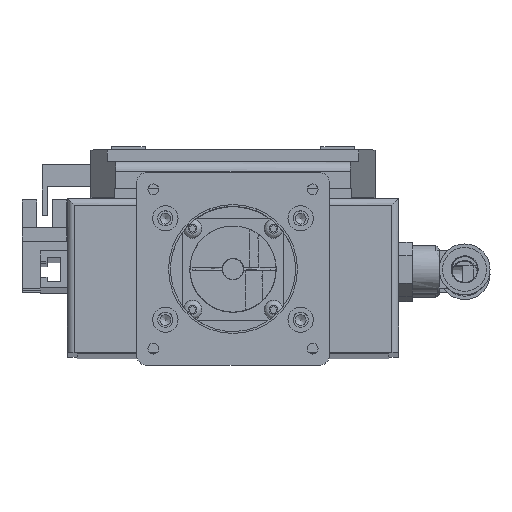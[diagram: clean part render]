
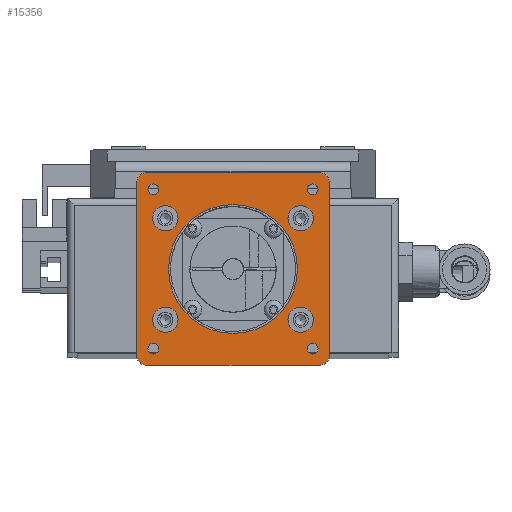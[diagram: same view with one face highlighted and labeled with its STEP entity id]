
A CAD part, top view. The second image highlights one B-rep face of the part: STEP entity #15356.
In plain terms, the highlighted planar face has unit normal (0, 0, 1).
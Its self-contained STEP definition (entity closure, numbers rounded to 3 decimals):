
#14774=CARTESIAN_POINT('',(0.0,3.,0.0));
#14775=VERTEX_POINT('',#14774);
#14782=CARTESIAN_POINT('',(0.0,54.0,0.0));
#14783=VERTEX_POINT('',#14782);
#14784=CARTESIAN_POINT('',(0.0,54.0,0.0));
#14785=DIRECTION('',(0.0,-1.0,0.0));
#14786=VECTOR('',#14785,51.0);
#14787=LINE('',#14784,#14786);
#14788=EDGE_CURVE('',#14783,#14775,#14787,.T.);
#15180=CARTESIAN_POINT('',(3.,0.0,0.0));
#15181=VERTEX_POINT('',#15180);
#15188=CARTESIAN_POINT('',(3.,3.,0.0));
#15189=DIRECTION('',(0.0,0.0,-1.0));
#15190=DIRECTION('',(-0.707,-0.707,0.0));
#15191=AXIS2_PLACEMENT_3D('',#15188,#15189,#15190);
#15192=CIRCLE('',#15191,3.0);
#15193=EDGE_CURVE('',#15181,#14775,#15192,.T.);
#15199=CARTESIAN_POINT('',(28.5,28.5,0.0));
#15200=DIRECTION('',(0.0,0.0,1.0));
#15201=DIRECTION('',(1.0,0.0,0.0));
#15202=AXIS2_PLACEMENT_3D('',#15199,#15200,#15201);
#15203=PLANE('',#15202);
#15204=ORIENTED_EDGE('',*,*,#15193,.F.);
#15205=CARTESIAN_POINT('',(54.0,0.0,0.0));
#15206=VERTEX_POINT('',#15205);
#15207=CARTESIAN_POINT('',(3.,0.0,0.0));
#15208=DIRECTION('',(1.0,0.0,0.0));
#15209=VECTOR('',#15208,51.0);
#15210=LINE('',#15207,#15209);
#15211=EDGE_CURVE('',#15181,#15206,#15210,.T.);
#15212=ORIENTED_EDGE('',*,*,#15211,.T.);
#15213=CARTESIAN_POINT('',(57.0,3.,0.0));
#15214=VERTEX_POINT('',#15213);
#15215=CARTESIAN_POINT('',(54.0,3.,0.0));
#15216=DIRECTION('',(0.0,0.0,-1.));
#15217=DIRECTION('',(0.707,-0.707,0.0));
#15218=AXIS2_PLACEMENT_3D('',#15215,#15216,#15217);
#15219=CIRCLE('',#15218,3.0);
#15220=EDGE_CURVE('',#15214,#15206,#15219,.T.);
#15221=ORIENTED_EDGE('',*,*,#15220,.F.);
#15222=CARTESIAN_POINT('',(57.,54.,0.0));
#15223=VERTEX_POINT('',#15222);
#15224=CARTESIAN_POINT('',(57.0,3.,0.0));
#15225=DIRECTION('',(0.0,1.0,0.0));
#15226=VECTOR('',#15225,51.);
#15227=LINE('',#15224,#15226);
#15228=EDGE_CURVE('',#15214,#15223,#15227,.T.);
#15229=ORIENTED_EDGE('',*,*,#15228,.T.);
#15230=CARTESIAN_POINT('',(54.,57.,0.0));
#15231=VERTEX_POINT('',#15230);
#15232=CARTESIAN_POINT('',(54.,54.,0.0));
#15233=DIRECTION('',(0.0,0.0,-1.));
#15234=DIRECTION('',(0.707,0.707,0.0));
#15235=AXIS2_PLACEMENT_3D('',#15232,#15233,#15234);
#15236=CIRCLE('',#15235,3.);
#15237=EDGE_CURVE('',#15231,#15223,#15236,.T.);
#15238=ORIENTED_EDGE('',*,*,#15237,.F.);
#15239=CARTESIAN_POINT('',(3.,57.0,0.0));
#15240=VERTEX_POINT('',#15239);
#15241=CARTESIAN_POINT('',(54.,57.,0.0));
#15242=DIRECTION('',(-1.0,0.0,0.0));
#15243=VECTOR('',#15242,51.);
#15244=LINE('',#15241,#15243);
#15245=EDGE_CURVE('',#15231,#15240,#15244,.T.);
#15246=ORIENTED_EDGE('',*,*,#15245,.T.);
#15247=CARTESIAN_POINT('',(3.,54.0,0.0));
#15248=DIRECTION('',(0.0,0.0,-1.0));
#15249=DIRECTION('',(-0.707,0.707,0.0));
#15250=AXIS2_PLACEMENT_3D('',#15247,#15248,#15249);
#15251=CIRCLE('',#15250,3.0);
#15252=EDGE_CURVE('',#14783,#15240,#15251,.T.);
#15253=ORIENTED_EDGE('',*,*,#15252,.F.);
#15254=ORIENTED_EDGE('',*,*,#14788,.T.);
#15255=EDGE_LOOP('',(#15204,#15212,#15221,#15229,#15238,#15246,#15253,#15254));
#15256=FACE_OUTER_BOUND('',#15255,.T.);
#15257=CARTESIAN_POINT('',(53.671,4.95,0.0));
#15258=VERTEX_POINT('',#15257);
#15259=CARTESIAN_POINT('',(52.05,4.95,0.0));
#15260=DIRECTION('',(0.0,0.0,-1.0));
#15261=DIRECTION('',(1.0,0.0,0.0));
#15262=AXIS2_PLACEMENT_3D('',#15259,#15260,#15261);
#15263=CIRCLE('',#15262,1.621);
#15264=EDGE_CURVE('',#15258,#15258,#15263,.T.);
#15265=ORIENTED_EDGE('',*,*,#15264,.T.);
#15266=EDGE_LOOP('',(#15265));
#15267=FACE_BOUND('',#15266,.T.);
#15268=CARTESIAN_POINT('',(6.571,52.05,0.0));
#15269=VERTEX_POINT('',#15268);
#15270=CARTESIAN_POINT('',(4.95,52.05,0.0));
#15271=DIRECTION('',(0.0,0.0,-1.0));
#15272=DIRECTION('',(1.0,0.0,0.0));
#15273=AXIS2_PLACEMENT_3D('',#15270,#15271,#15272);
#15274=CIRCLE('',#15273,1.621);
#15275=EDGE_CURVE('',#15269,#15269,#15274,.T.);
#15276=ORIENTED_EDGE('',*,*,#15275,.T.);
#15277=EDGE_LOOP('',(#15276));
#15278=FACE_BOUND('',#15277,.T.);
#15279=CARTESIAN_POINT('',(53.671,52.05,0.0));
#15280=VERTEX_POINT('',#15279);
#15281=CARTESIAN_POINT('',(52.05,52.05,0.0));
#15282=DIRECTION('',(0.0,0.0,-1.0));
#15283=DIRECTION('',(1.0,0.0,0.0));
#15284=AXIS2_PLACEMENT_3D('',#15281,#15282,#15283);
#15285=CIRCLE('',#15284,1.621);
#15286=EDGE_CURVE('',#15280,#15280,#15285,.T.);
#15287=ORIENTED_EDGE('',*,*,#15286,.T.);
#15288=EDGE_LOOP('',(#15287));
#15289=FACE_BOUND('',#15288,.T.);
#15290=CARTESIAN_POINT('',(6.571,4.95,0.0));
#15291=VERTEX_POINT('',#15290);
#15292=CARTESIAN_POINT('',(4.95,4.95,0.0));
#15293=DIRECTION('',(0.0,0.0,-1.0));
#15294=DIRECTION('',(1.0,0.0,0.0));
#15295=AXIS2_PLACEMENT_3D('',#15292,#15293,#15294);
#15296=CIRCLE('',#15295,1.621);
#15297=EDGE_CURVE('',#15291,#15291,#15296,.T.);
#15298=ORIENTED_EDGE('',*,*,#15297,.T.);
#15299=EDGE_LOOP('',(#15298));
#15300=FACE_BOUND('',#15299,.T.);
#15301=CARTESIAN_POINT('',(52.25,13.5,0.0));
#15302=VERTEX_POINT('',#15301);
#15303=CARTESIAN_POINT('',(48.5,13.5,0.0));
#15304=DIRECTION('',(0.0,0.0,-1.0));
#15305=DIRECTION('',(1.0,0.0,0.0));
#15306=AXIS2_PLACEMENT_3D('',#15303,#15304,#15305);
#15307=CIRCLE('',#15306,3.75);
#15308=EDGE_CURVE('',#15302,#15302,#15307,.T.);
#15309=ORIENTED_EDGE('',*,*,#15308,.T.);
#15310=EDGE_LOOP('',(#15309));
#15311=FACE_BOUND('',#15310,.T.);
#15312=CARTESIAN_POINT('',(12.25,43.5,0.0));
#15313=VERTEX_POINT('',#15312);
#15314=CARTESIAN_POINT('',(8.5,43.5,0.0));
#15315=DIRECTION('',(0.0,0.0,-1.0));
#15316=DIRECTION('',(1.0,0.0,0.0));
#15317=AXIS2_PLACEMENT_3D('',#15314,#15315,#15316);
#15318=CIRCLE('',#15317,3.75);
#15319=EDGE_CURVE('',#15313,#15313,#15318,.T.);
#15320=ORIENTED_EDGE('',*,*,#15319,.T.);
#15321=EDGE_LOOP('',(#15320));
#15322=FACE_BOUND('',#15321,.T.);
#15323=CARTESIAN_POINT('',(12.25,13.5,0.0));
#15324=VERTEX_POINT('',#15323);
#15325=CARTESIAN_POINT('',(8.5,13.5,0.0));
#15326=DIRECTION('',(0.0,0.0,-1.0));
#15327=DIRECTION('',(1.0,0.0,0.0));
#15328=AXIS2_PLACEMENT_3D('',#15325,#15326,#15327);
#15329=CIRCLE('',#15328,3.75);
#15330=EDGE_CURVE('',#15324,#15324,#15329,.T.);
#15331=ORIENTED_EDGE('',*,*,#15330,.T.);
#15332=EDGE_LOOP('',(#15331));
#15333=FACE_BOUND('',#15332,.T.);
#15334=CARTESIAN_POINT('',(52.25,43.5,0.0));
#15335=VERTEX_POINT('',#15334);
#15336=CARTESIAN_POINT('',(48.5,43.5,0.0));
#15337=DIRECTION('',(0.0,0.0,-1.0));
#15338=DIRECTION('',(1.0,0.0,0.0));
#15339=AXIS2_PLACEMENT_3D('',#15336,#15337,#15338);
#15340=CIRCLE('',#15339,3.75);
#15341=EDGE_CURVE('',#15335,#15335,#15340,.T.);
#15342=ORIENTED_EDGE('',*,*,#15341,.T.);
#15343=EDGE_LOOP('',(#15342));
#15344=FACE_BOUND('',#15343,.T.);
#15345=CARTESIAN_POINT('',(47.55,28.5,0.0));
#15346=VERTEX_POINT('',#15345);
#15347=CARTESIAN_POINT('',(28.5,28.5,0.0));
#15348=DIRECTION('',(0.0,0.0,-1.0));
#15349=DIRECTION('',(-1.0,0.0,0.0));
#15350=AXIS2_PLACEMENT_3D('',#15347,#15348,#15349);
#15351=CIRCLE('',#15350,19.05);
#15352=EDGE_CURVE('',#15346,#15346,#15351,.T.);
#15353=ORIENTED_EDGE('',*,*,#15352,.T.);
#15354=EDGE_LOOP('',(#15353));
#15355=FACE_BOUND('',#15354,.T.);
#15356=ADVANCED_FACE('',(#15256,#15267,#15278,#15289,#15300,#15311,#15322,#15333,#15344,#15355),#15203,.T.);
